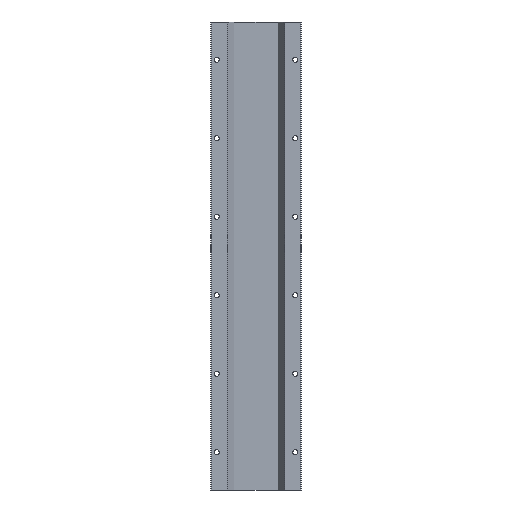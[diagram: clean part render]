
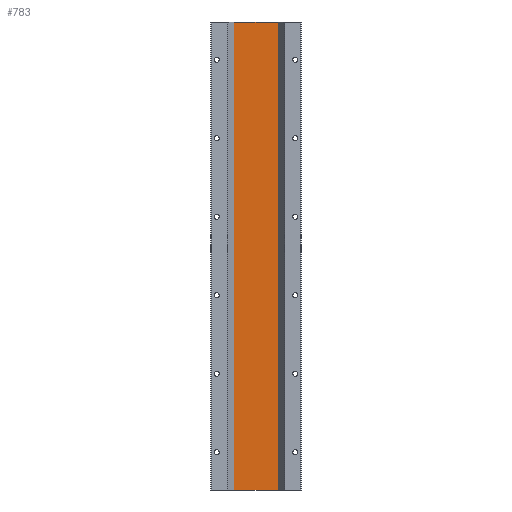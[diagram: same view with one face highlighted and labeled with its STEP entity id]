
A CAD part, front view. The second image highlights one B-rep face of the part: STEP entity #783.
In plain terms, the highlighted planar face has unit normal (0, -1, 0).
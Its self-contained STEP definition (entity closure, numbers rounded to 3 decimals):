
#536 = EDGE_CURVE ( 'NONE', #537, #817, #2714, .T. ) ;
#537 = VERTEX_POINT ( 'NONE', #2710 ) ;
#543 = EDGE_LOOP ( 'NONE', ( #784, #787, #790, #792 ) ) ;
#783 = ADVANCED_FACE ( 'NONE', ( #3243 ), #3242, .T. ) ;
#784 = ORIENTED_EDGE ( 'NONE', *, *, #785, .F. ) ;
#785 = EDGE_CURVE ( 'NONE', #786, #817, #3237, .T. ) ;
#786 = VERTEX_POINT ( 'NONE', #3233 ) ;
#787 = ORIENTED_EDGE ( 'NONE', *, *, #788, .F. ) ;
#788 = EDGE_CURVE ( 'NONE', #789, #786, #3232, .T. ) ;
#789 = VERTEX_POINT ( 'NONE', #3228 ) ;
#790 = ORIENTED_EDGE ( 'NONE', *, *, #791, .T. ) ;
#791 = EDGE_CURVE ( 'NONE', #789, #537, #3227, .T. ) ;
#792 = ORIENTED_EDGE ( 'NONE', *, *, #536, .T. ) ;
#817 = VERTEX_POINT ( 'NONE', #3204 ) ;
#2710 = CARTESIAN_POINT ( 'NONE',  ( 28.2, 13.5, -596. ) ) ;
#2711 = DIRECTION ( 'NONE',  ( 0., 0., 1. ) ) ;
#2712 = VECTOR ( 'NONE', #2711, 1000. ) ;
#2713 = CARTESIAN_POINT ( 'NONE',  ( 28.2, 13.5, -596. ) ) ;
#2714 = LINE ( 'NONE', #2713, #2712 ) ;
#3204 = CARTESIAN_POINT ( 'NONE',  ( 28.2, 13.5, 0. ) ) ;
#3224 = DIRECTION ( 'NONE',  ( 1., 0., 0. ) ) ;
#3225 = VECTOR ( 'NONE', #3224, 1000. ) ;
#3226 = CARTESIAN_POINT ( 'NONE',  ( 28.2, 13.5, -596. ) ) ;
#3227 = LINE ( 'NONE', #3226, #3225 ) ;
#3228 = CARTESIAN_POINT ( 'NONE',  ( -28.2, 13.5, -596. ) ) ;
#3229 = DIRECTION ( 'NONE',  ( 0., 0., 1. ) ) ;
#3230 = VECTOR ( 'NONE', #3229, 1000. ) ;
#3231 = CARTESIAN_POINT ( 'NONE',  ( -28.2, 13.5, -596. ) ) ;
#3232 = LINE ( 'NONE', #3231, #3230 ) ;
#3233 = CARTESIAN_POINT ( 'NONE',  ( -28.2, 13.5, 0. ) ) ;
#3234 = DIRECTION ( 'NONE',  ( 1., 0., 0. ) ) ;
#3235 = VECTOR ( 'NONE', #3234, 1000. ) ;
#3236 = CARTESIAN_POINT ( 'NONE',  ( 28.2, 13.5, 0. ) ) ;
#3237 = LINE ( 'NONE', #3236, #3235 ) ;
#3238 = DIRECTION ( 'NONE',  ( 0., 0., -1. ) ) ;
#3239 = DIRECTION ( 'NONE',  ( 0., -1., 0. ) ) ;
#3240 = CARTESIAN_POINT ( 'NONE',  ( 28.2, 13.5, -596. ) ) ;
#3241 = AXIS2_PLACEMENT_3D ( 'NONE', #3240, #3239, #3238 ) ;
#3242 = PLANE ( 'NONE',  #3241 ) ;
#3243 = FACE_OUTER_BOUND ( 'NONE', #543, .T. ) ;
